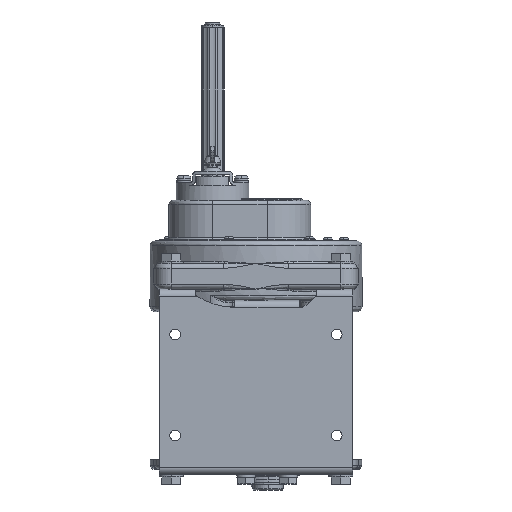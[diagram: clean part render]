
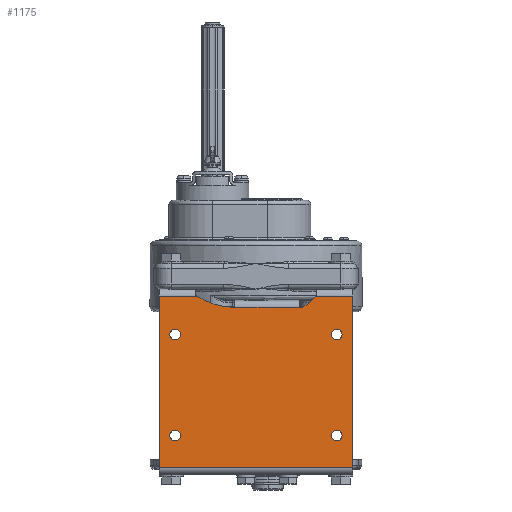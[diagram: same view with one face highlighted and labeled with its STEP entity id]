
A CAD part, front view. The second image highlights one B-rep face of the part: STEP entity #1175.
In plain terms, the highlighted planar face has unit normal (0, -1, 0).
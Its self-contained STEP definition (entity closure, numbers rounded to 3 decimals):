
#1175=ADVANCED_FACE('',(#13262,#13263,#13264,#13265,#13266),#13261,.T.);
#13261=PLANE('',#36362);
#13262=FACE_OUTER_BOUND('',#36363,.T.);
#13263=FACE_BOUND('',#36364,.T.);
#13264=FACE_BOUND('',#36365,.T.);
#13265=FACE_BOUND('',#36366,.T.);
#13266=FACE_BOUND('',#36367,.T.);
#36359=CARTESIAN_POINT('',(11.,-36.383,-212.1));
#36360=DIRECTION('',(0.,-1.,0.));
#36361=DIRECTION('',(0.,0.,1.));
#36362=AXIS2_PLACEMENT_3D('',#36359,#36360,#36361);
#36363=EDGE_LOOP('',(#51841,#51842,#51843,#51844,#51845,#51846,#51847,#51848,#51849,#51850));
#36364=EDGE_LOOP('',(#51851,#51852));
#36365=EDGE_LOOP('',(#51853,#51854));
#36366=EDGE_LOOP('',(#51855,#51856));
#36367=EDGE_LOOP('',(#51857,#51858));
#51841=ORIENTED_EDGE('',*,*,#62181,.T.);
#51842=ORIENTED_EDGE('',*,*,#61698,.T.);
#51843=ORIENTED_EDGE('',*,*,#62183,.T.);
#51844=ORIENTED_EDGE('',*,*,#59233,.T.);
#51845=ORIENTED_EDGE('',*,*,#62184,.T.);
#51846=ORIENTED_EDGE('',*,*,#62185,.T.);
#51847=ORIENTED_EDGE('',*,*,#62178,.T.);
#51848=ORIENTED_EDGE('',*,*,#62159,.F.);
#51849=ORIENTED_EDGE('',*,*,#62174,.F.);
#51850=ORIENTED_EDGE('',*,*,#62186,.T.);
#51851=ORIENTED_EDGE('',*,*,#62187,.F.);
#51852=ORIENTED_EDGE('',*,*,#62188,.F.);
#51853=ORIENTED_EDGE('',*,*,#62189,.F.);
#51854=ORIENTED_EDGE('',*,*,#62190,.F.);
#51855=ORIENTED_EDGE('',*,*,#62191,.F.);
#51856=ORIENTED_EDGE('',*,*,#62192,.F.);
#51857=ORIENTED_EDGE('',*,*,#62193,.F.);
#51858=ORIENTED_EDGE('',*,*,#62194,.F.);
#59233=EDGE_CURVE('',#67343,#67385,#67392,.T.);
#61698=EDGE_CURVE('',#83868,#83861,#83869,.T.);
#62159=EDGE_CURVE('',#86934,#86941,#86942,.T.);
#62174=EDGE_CURVE('',#87040,#86934,#87041,.T.);
#62178=EDGE_CURVE('',#87065,#86941,#87066,.T.);
#62181=EDGE_CURVE('',#87085,#83868,#87086,.T.);
#62183=EDGE_CURVE('',#83861,#67343,#87098,.T.);
#62184=EDGE_CURVE('',#67385,#87104,#87105,.T.);
#62185=EDGE_CURVE('',#87104,#87065,#87111,.T.);
#62186=EDGE_CURVE('',#87040,#87085,#87117,.T.);
#62187=EDGE_CURVE('',#87123,#87124,#87125,.T.);
#62188=EDGE_CURVE('',#87124,#87123,#87131,.T.);
#62189=EDGE_CURVE('',#87137,#87138,#87139,.T.);
#62190=EDGE_CURVE('',#87138,#87137,#87145,.T.);
#62191=EDGE_CURVE('',#87151,#87152,#87153,.T.);
#62192=EDGE_CURVE('',#87152,#87151,#87159,.T.);
#62193=EDGE_CURVE('',#87165,#87166,#87167,.T.);
#62194=EDGE_CURVE('',#87166,#87165,#87173,.T.);
#67343=VERTEX_POINT('',#107607);
#67385=VERTEX_POINT('',#107646);
#67392=LINE('',#107663,#107664);
#83861=VERTEX_POINT('',#119777);
#83868=VERTEX_POINT('',#119781);
#83869=CIRCLE('',#119785,30.);
#86934=VERTEX_POINT('',#121843);
#86941=VERTEX_POINT('',#121848);
#86942=LINE('',#121849,#121850);
#87040=VERTEX_POINT('',#121908);
#87041=LINE('',#121909,#121910);
#87065=VERTEX_POINT('',#121923);
#87066=LINE('',#121924,#121925);
#87085=VERTEX_POINT('',#121935);
#87086=LINE('',#121936,#121937);
#87098=CIRCLE('',#121946,2.);
#87104=VERTEX_POINT('',#121947);
#87105=CIRCLE('',#121951,2.);
#87111=CIRCLE('',#121955,70.);
#87117=LINE('',#121956,#121957);
#87123=VERTEX_POINT('',#121959);
#87124=VERTEX_POINT('',#121960);
#87125=CIRCLE('',#121964,5.25);
#87131=CIRCLE('',#121968,5.25);
#87137=VERTEX_POINT('',#121969);
#87138=VERTEX_POINT('',#121970);
#87139=CIRCLE('',#121974,5.25);
#87145=CIRCLE('',#121978,5.25);
#87151=VERTEX_POINT('',#121979);
#87152=VERTEX_POINT('',#121980);
#87153=CIRCLE('',#121984,5.25);
#87159=CIRCLE('',#121988,5.25);
#87165=VERTEX_POINT('',#121989);
#87166=VERTEX_POINT('',#121990);
#87167=CIRCLE('',#121994,5.25);
#87173=CIRCLE('',#121998,5.25);
#107607=CARTESIAN_POINT('',(-50.,-36.383,-43.4));
#107646=CARTESIAN_POINT('',(-118.,-36.383,-43.4));
#107663=CARTESIAN_POINT('',(-50.,-36.383,-43.4));
#107664=VECTOR('',#107665,68.);
#107665=DIRECTION('',(-1.,0.,0.));
#119777=CARTESIAN_POINT('',(-49.234,-36.383,-43.247));
#119781=CARTESIAN_POINT('',(-35.917,-36.383,-32.4));
#119782=CARTESIAN_POINT('',(-60.73,-36.383,-15.537));
#119783=DIRECTION('',(0.,1.,0.));
#119784=DIRECTION('',(0.,0.,-1.));
#119785=AXIS2_PLACEMENT_3D('',#119782,#119783,#119784);
#121843=CARTESIAN_POINT('',(-191.,-36.383,-202.1));
#121848=CARTESIAN_POINT('',(-191.,-36.383,-32.4));
#121849=CARTESIAN_POINT('',(-191.,-36.383,-202.1));
#121850=VECTOR('',#121851,169.7);
#121851=DIRECTION('',(0.,0.,1.));
#121908=CARTESIAN_POINT('',(1.,-36.383,-202.1));
#121909=CARTESIAN_POINT('',(1.,-36.383,-202.1));
#121910=VECTOR('',#121911,192.);
#121911=DIRECTION('',(-1.,0.,0.));
#121923=CARTESIAN_POINT('',(-153.59,-36.383,-32.4));
#121924=CARTESIAN_POINT('',(-153.59,-36.383,-32.4));
#121925=VECTOR('',#121926,37.41);
#121926=DIRECTION('',(-1.,0.,0.));
#121935=CARTESIAN_POINT('',(1.,-36.383,-32.4));
#121936=CARTESIAN_POINT('',(1.,-36.383,-32.4));
#121937=VECTOR('',#121938,36.917);
#121938=DIRECTION('',(-1.,0.,0.));
#121943=CARTESIAN_POINT('',(-50.,-36.383,-41.4));
#121944=DIRECTION('',(0.,1.,0.));
#121945=DIRECTION('',(0.,0.,-1.));
#121946=AXIS2_PLACEMENT_3D('',#121943,#121944,#121945);
#121947=CARTESIAN_POINT('',(-118.063,-36.383,-43.399));
#121948=CARTESIAN_POINT('',(-118.,-36.383,-41.4));
#121949=DIRECTION('',(0.,1.,0.));
#121950=DIRECTION('',(0.,0.,-1.));
#121951=AXIS2_PLACEMENT_3D('',#121948,#121949,#121950);
#121952=CARTESIAN_POINT('',(-115.868,-36.383,26.567));
#121953=DIRECTION('',(0.,1.,0.));
#121954=DIRECTION('',(0.,0.,-1.));
#121955=AXIS2_PLACEMENT_3D('',#121952,#121953,#121954);
#121956=CARTESIAN_POINT('',(1.,-36.383,-202.1));
#121957=VECTOR('',#121958,169.7);
#121958=DIRECTION('',(0.,0.,1.));
#121959=CARTESIAN_POINT('',(-15.,-36.383,-75.65));
#121960=CARTESIAN_POINT('',(-15.,-36.383,-65.15));
#121961=CARTESIAN_POINT('',(-15.,-36.383,-70.4));
#121962=DIRECTION('',(0.,-1.,0.));
#121963=DIRECTION('',(0.,0.,1.));
#121964=AXIS2_PLACEMENT_3D('',#121961,#121962,#121963);
#121965=CARTESIAN_POINT('',(-15.,-36.383,-70.4));
#121966=DIRECTION('',(0.,-1.,0.));
#121967=DIRECTION('',(0.,0.,1.));
#121968=AXIS2_PLACEMENT_3D('',#121965,#121966,#121967);
#121969=CARTESIAN_POINT('',(-175.,-36.383,-75.65));
#121970=CARTESIAN_POINT('',(-175.,-36.383,-65.15));
#121971=CARTESIAN_POINT('',(-175.,-36.383,-70.4));
#121972=DIRECTION('',(0.,-1.,0.));
#121973=DIRECTION('',(0.,0.,1.));
#121974=AXIS2_PLACEMENT_3D('',#121971,#121972,#121973);
#121975=CARTESIAN_POINT('',(-175.,-36.383,-70.4));
#121976=DIRECTION('',(0.,-1.,0.));
#121977=DIRECTION('',(0.,0.,1.));
#121978=AXIS2_PLACEMENT_3D('',#121975,#121976,#121977);
#121979=CARTESIAN_POINT('',(-175.,-36.383,-175.65));
#121980=CARTESIAN_POINT('',(-175.,-36.383,-165.15));
#121981=CARTESIAN_POINT('',(-175.,-36.383,-170.4));
#121982=DIRECTION('',(0.,-1.,0.));
#121983=DIRECTION('',(0.,0.,1.));
#121984=AXIS2_PLACEMENT_3D('',#121981,#121982,#121983);
#121985=CARTESIAN_POINT('',(-175.,-36.383,-170.4));
#121986=DIRECTION('',(0.,-1.,0.));
#121987=DIRECTION('',(0.,0.,1.));
#121988=AXIS2_PLACEMENT_3D('',#121985,#121986,#121987);
#121989=CARTESIAN_POINT('',(-15.,-36.383,-175.65));
#121990=CARTESIAN_POINT('',(-15.,-36.383,-165.15));
#121991=CARTESIAN_POINT('',(-15.,-36.383,-170.4));
#121992=DIRECTION('',(0.,-1.,0.));
#121993=DIRECTION('',(0.,0.,1.));
#121994=AXIS2_PLACEMENT_3D('',#121991,#121992,#121993);
#121995=CARTESIAN_POINT('',(-15.,-36.383,-170.4));
#121996=DIRECTION('',(0.,-1.,0.));
#121997=DIRECTION('',(0.,0.,1.));
#121998=AXIS2_PLACEMENT_3D('',#121995,#121996,#121997);
